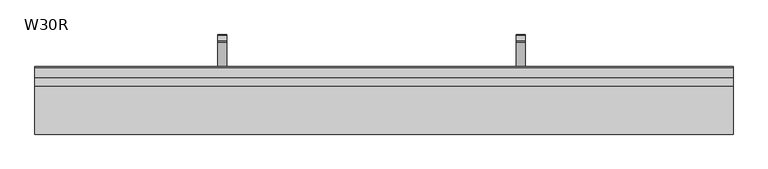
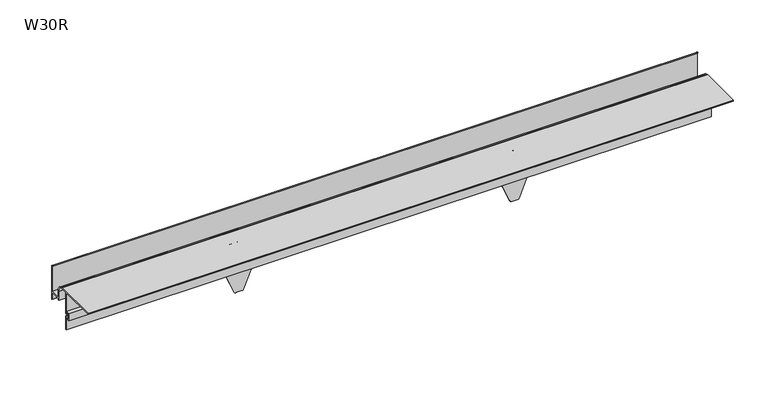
"""IFC4 building model written with IfcOpenShell, lengths in millimetres: proxy geometry, W30R Profil okapowy prosty z rynną : W30R."""

from ifc_helpers import new_model, si_unit, point, frame, frame_2d, origin, place, context, project, spatial, polyline, circle_curve, trimmed, segment, composite_curve, outline, extrude, source, transform, mapped, element, save
from ifc_brep_helpers import plane_surface, cylinder_surface, revolved_surface, advanced_brep


def w30r_4fe4cb9a(model_context):
    return source(origin(), model_context, "Body", "SolidModel", [
        advanced_brep(
        [(806.4889281, 43.253125, -67.3579557), (806.4889281, 43.253125, -57.4654849), (806.4889281, 44.253125, -56.4654849), (806.4889281, 54.253125, -56.4654849), (806.4889281, 54.253125, -58.4654849), (806.4889281, 45.753125, -58.4654849), (806.4889281, 45.753125, -62.0548341), (806.4889281, 45.753125, -76.6748546), (806.4889281, 11.253125, -121.4654849), (806.4889281, -39.746875, -121.4650625), (806.4889281, -39.746875, -46.4650625), (806.4889281, -29.746875, -46.4650625), (806.4889281, -26.9184479, -47.6366354), (806.4889281, -25.5042343, -49.0508489), (806.4889281, -26.9184479, -50.4650625), (806.4889281, -28.3326614, -49.0508489), (806.4889281, -33.746875, -48.4650699), (806.4889281, -31.746875, -67.3579557), (821.4889281, 43.253125, -67.3579557), (821.4889281, -31.746875, -67.3579557), (821.4889281, -33.746875, -48.4650699), (821.4889281, -28.3326614, -49.0508489), (821.4889281, -26.9184479, -50.4650625), (821.4889281, -25.5042343, -49.0508489), (821.4889281, -26.9184479, -47.6366354), (821.4889281, -29.746875, -46.4650625), (821.4889281, -39.746875, -46.4650625), (821.4889281, -39.746875, -121.4650625), (821.4889281, 11.253125, -121.4654849), (821.4889281, 45.753125, -76.6748546), (821.4889281, 45.753125, -62.0548341), (821.4889281, 45.753125, -58.4654849), (821.4889281, 54.253125, -58.4654849), (821.4889281, 54.253125, -56.4654849), (821.4889281, 44.253125, -56.4654849), (821.4889281, 43.253125, -57.4654849), (833.4889281, -39.746875, -33.4650625), (836.4889281, -39.746875, -36.4650625), (836.4889281, -39.746875, -98.4650625), (822.2581588, -39.746875, -132.6189087), (819.4889281, -39.746875, -134.4650625), (808.4889281, -39.746875, -134.4650625), (805.7196973, -39.746875, -132.6189087), (791.4889281, -39.746875, -98.4650625), (791.4889281, -39.746875, -36.4650625), (794.4889281, -39.746875, -33.4650625), (833.4889281, -41.746875, -33.4650625), (794.4889281, -41.746875, -33.4650625), (791.4889281, -41.746875, -36.4650625), (791.4889281, -41.746875, -98.4650625), (805.7196973, -41.746875, -132.6189087), (808.4889281, -41.746875, -134.4650625), (819.4889281, -41.746875, -134.4650625), (822.2581588, -41.746875, -132.6189087), (836.4889281, -41.746875, -98.4650625), (836.4889281, -41.746875, -36.4650625)],
        [
            (0, 1),
            (1, 2, circle_curve(frame((806.4889281, 44.253125, -57.4654849), z_axis=(-1.0, 0.0, 0.0), x_axis=(0.0, 1.0, 0.0)), 1.0)),
            (2, 3),
            (3, 4, circle_curve(frame((806.4889281, 54.253125, -57.4654849), z_axis=(-1.0, 0.0, 0.0), x_axis=(0.0, 1.0, 0.0)), 1.0)),
            (4, 5),
            (5, 6),
            (6, 7),
            (7, 8, circle_curve(frame((806.4889281, -6.9272146, -71.7799373), z_axis=(-1.0, 0.0, 0.0), x_axis=(0.0, 1.0, 0.0)), 52.9072622)),
            (8, 9),
            (9, 10),
            (10, 11),
            (11, 12, circle_curve(frame((806.4889281, -29.746875, -50.4650625), z_axis=(-1.0, 0.0, 0.0), x_axis=(0.0, 1.0, 0.0)), 4.0)),
            (12, 13),
            (13, 14, circle_curve(frame((806.4889281, -26.2113411, -49.7579557), z_axis=(-1.0, 0.0, 0.0), x_axis=(0.0, 1.0, 0.0)), 1.0)),
            (14, 15),
            (15, 16, circle_curve(frame((806.4889281, -32.9075381, -66.0213045), z_axis=(1.0, 0.0, 0.0), x_axis=(0.0, 1.0, 0.0)), 17.5762868)),
            (16, 17),
            (17, 0, circle_curve(frame((806.4889281, 5.753125, -67.3579557), z_axis=(1.0, 0.0, 0.0), x_axis=(0.0, 1.0, 0.0)), 37.5)),
            (18, 19, circle_curve(frame((821.4889281, 5.753125, -67.3579557), z_axis=(-1.0, 0.0, 0.0), x_axis=(0.0, 1.0, 0.0)), 37.5)),
            (19, 20),
            (20, 21, circle_curve(frame((821.4889281, -32.9075381, -66.0213045), z_axis=(-1.0, 0.0, 0.0), x_axis=(0.0, 1.0, 0.0)), 17.5762868)),
            (21, 22),
            (22, 23, circle_curve(frame((821.4889281, -26.2113411, -49.7579557), z_axis=(1.0, 0.0, 0.0), x_axis=(0.0, 1.0, 0.0)), 1.0)),
            (23, 24),
            (24, 25, circle_curve(frame((821.4889281, -29.746875, -50.4650625), z_axis=(1.0, 0.0, 0.0), x_axis=(0.0, 1.0, 0.0)), 4.0)),
            (25, 26),
            (26, 27),
            (27, 28),
            (28, 29, circle_curve(frame((821.4889281, -6.9272146, -71.7799373), z_axis=(1.0, 0.0, 0.0), x_axis=(0.0, 1.0, 0.0)), 52.9072622)),
            (29, 30),
            (30, 31),
            (31, 32),
            (32, 33, circle_curve(frame((821.4889281, 54.253125, -57.4654849), z_axis=(1.0, 0.0, 0.0), x_axis=(0.0, 1.0, 0.0)), 1.0)),
            (33, 34),
            (34, 35, circle_curve(frame((821.4889281, 44.253125, -57.4654849), z_axis=(1.0, 0.0, 0.0), x_axis=(0.0, 1.0, 0.0)), 1.0)),
            (35, 18),
            (0, 18),
            (35, 1),
            (34, 2),
            (33, 3),
            (32, 4),
            (31, 5),
            (30, 6),
            (29, 7),
            (28, 8),
            (27, 9),
            (10, 26),
            (25, 11),
            (24, 12),
            (23, 13),
            (22, 14),
            (21, 15),
            (20, 16),
            (19, 17),
            (36, 37, circle_curve(frame((833.4889281, -39.746875, -36.4650625), z_axis=(0.0, 1.0, 0.0), x_axis=(1.0, 0.0, 0.0)), 3.0)),
            (37, 38),
            (38, 39),
            (39, 40, circle_curve(frame((819.4889281, -39.746875, -131.4650625), z_axis=(0.0, 1.0, 0.0), x_axis=(1.0, 0.0, 0.0)), 3.0)),
            (40, 41),
            (41, 42, circle_curve(frame((808.4889281, -39.746875, -131.4650625), z_axis=(0.0, 1.0, 0.0), x_axis=(1.0, 0.0, 0.0)), 3.0)),
            (42, 43),
            (43, 44),
            (44, 45, circle_curve(frame((794.4889281, -39.746875, -36.4650625), z_axis=(0.0, 1.0, 0.0), x_axis=(1.0, 0.0, 0.0)), 3.0)),
            (45, 36),
            (46, 47),
            (47, 48, circle_curve(frame((794.4889281, -41.746875, -36.4650625), z_axis=(0.0, -1.0, 0.0), x_axis=(1.0, 0.0, 0.0)), 3.0)),
            (48, 49),
            (49, 50),
            (50, 51, circle_curve(frame((808.4889281, -41.746875, -131.4650625), z_axis=(0.0, -1.0, 0.0), x_axis=(1.0, 0.0, 0.0)), 3.0)),
            (51, 52),
            (52, 53, circle_curve(frame((819.4889281, -41.746875, -131.4650625), z_axis=(0.0, -1.0, 0.0), x_axis=(1.0, 0.0, 0.0)), 3.0)),
            (53, 54),
            (54, 55),
            (55, 46, circle_curve(frame((833.4889281, -41.746875, -36.4650625), z_axis=(0.0, -1.0, 0.0), x_axis=(1.0, 0.0, 0.0)), 3.0)),
            (45, 47),
            (46, 36),
            (44, 48),
            (43, 49),
            (42, 50),
            (41, 51),
            (40, 52),
            (39, 53),
            (38, 54),
            (37, 55),
        ],
        [
            plane_surface(frame((806.4889281, 43.253125, -57.4654849), z_axis=(-1.0, 0.0, 0.0), x_axis=(0.0, 0.0, -1.0))),
            plane_surface(frame((821.4889281, 43.253125, -57.4654849), z_axis=(1.0, 0.0, 0.0), x_axis=(0.0, 0.0, 1.0))),
            plane_surface(frame((821.4889281, 43.253125, -67.3579557), z_axis=(0.0, -1.0, 0.0), x_axis=(-1.0, 0.0, 0.0))),
            cylinder_surface(frame((806.4889281, 44.253125, -57.4654849), z_axis=(1.0, 0.0, 0.0), x_axis=(0.0, 1.0, 0.0)), 1.0),
            plane_surface(frame((821.4889281, 44.253125, -56.4654849), z_axis=(0.0, 0.0, 1.0), x_axis=(-1.0, 0.0, 0.0))),
            cylinder_surface(frame((806.4889281, 54.253125, -57.4654849), z_axis=(1.0, 0.0, 0.0), x_axis=(0.0, 1.0, 0.0)), 1.0),
            plane_surface(frame((821.4889281, 54.253125, -58.4654849), z_axis=(0.0, 0.0, -1.0), x_axis=(-1.0, 0.0, 0.0))),
            plane_surface(frame((821.4889281, 45.753125, -58.4654849), z_axis=(0.0, 1.0, 0.0), x_axis=(-1.0, 0.0, 0.0))),
            plane_surface(frame((821.4889281, 45.753125, -62.0548341), z_axis=(0.0, 1.0, 0.0), x_axis=(-1.0, 0.0, 0.0))),
            cylinder_surface(frame((806.4889281, -6.9272146, -71.7799373), z_axis=(1.0, 0.0, 0.0), x_axis=(0.0, 1.0, 0.0)), 52.9072622),
            plane_surface(frame((821.4889281, 11.253125, -121.4654849), z_axis=(0.0, -8.283194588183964e-06, -0.9999999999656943), x_axis=(-1.0, 0.0, 0.0))),
            plane_surface(frame((821.4889281, -40.7901639, -46.4650625), z_axis=(0.0, 0.0, 1.0), x_axis=(-1.0, 0.0, 0.0))),
            cylinder_surface(frame((806.4889281, -29.746875, -50.4650625), z_axis=(1.0, 0.0, 0.0), x_axis=(0.0, 1.0, 0.0)), 4.0),
            plane_surface(frame((821.4889281, -26.9184479, -47.6366354), z_axis=(0.0, 0.7071067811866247, 0.7071067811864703), x_axis=(-1.0, 0.0, 0.0))),
            cylinder_surface(frame((806.4889281, -26.2113411, -49.7579557), z_axis=(1.0, 0.0, 0.0), x_axis=(0.0, 1.0, 0.0)), 1.0),
            plane_surface(frame((821.4889281, -26.9184479, -50.4650625), z_axis=(0.0, -0.7071067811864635, -0.7071067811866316), x_axis=(-1.0, 0.0, 0.0))),
            revolved_surface(polyline([(806.4889281, -15.331251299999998, -66.0213045), (821.4889281, -15.331251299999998, -66.0213045)]), (806.4889281, -32.9075381, -66.0213045), (-1.0, 0.0, 0.0)),
            plane_surface(frame((821.4889281, -33.746875, -48.4650699), z_axis=(0.0, 0.9944434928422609, 0.10527174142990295), x_axis=(-1.0, 0.0, 0.0))),
            revolved_surface(polyline([(806.4889281, 43.253125, -67.3579557), (821.4889281, 43.253125, -67.3579557)]), (806.4889281, 5.753125, -67.3579557), (-1.0, 0.0, 0.0)),
            plane_surface(frame((794.4889281, -39.746875, -33.4650625), z_axis=(0.0, 1.0, 0.0), x_axis=(-1.0, 0.0, 0.0))),
            plane_surface(frame((794.4889281, -41.746875, -33.4650625), z_axis=(0.0, -1.0, 0.0), x_axis=(1.0, 0.0, 0.0))),
            plane_surface(frame((833.4889281, -39.746875, -33.4650625), z_axis=(0.0, 0.0, 1.0), x_axis=(0.0, -1.0, 0.0))),
            cylinder_surface(frame((794.4889281, -41.746875, -36.4650625), z_axis=(0.0, 1.0, 0.0), x_axis=(1.0, 0.0, 0.0)), 3.0),
            plane_surface(frame((791.4889281, -39.746875, -36.4650625), z_axis=(-1.0, 0.0, 0.0), x_axis=(0.0, -1.0, 0.0))),
            plane_surface(frame((791.4889281, -39.746875, -98.4650625), z_axis=(-0.9230769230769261, 0.0, -0.38461538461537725), x_axis=(0.0, -1.0, 0.0))),
            cylinder_surface(frame((808.4889281, -41.746875, -131.4650625), z_axis=(0.0, 1.0, 0.0), x_axis=(1.0, 0.0, 0.0)), 3.0),
            plane_surface(frame((808.4889281, -39.746875, -134.4650625), z_axis=(0.0, 0.0, -1.0), x_axis=(0.0, -1.0, 0.0))),
            cylinder_surface(frame((819.4889281, -41.746875, -131.4650625), z_axis=(0.0, 1.0, 0.0), x_axis=(1.0, 0.0, 0.0)), 3.0),
            plane_surface(frame((822.2581588, -39.746875, -132.6189087), z_axis=(0.9230769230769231, 0.0, -0.3846153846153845), x_axis=(0.0, -1.0, 0.0))),
            plane_surface(frame((836.4889281, -39.746875, -98.4650625), z_axis=(1.0, 0.0, 0.0), x_axis=(0.0, -1.0, 0.0))),
            cylinder_surface(frame((833.4889281, -41.746875, -36.4650625), z_axis=(0.0, 1.0, 0.0), x_axis=(1.0, 0.0, 0.0)), 3.0),
        ],
        [
            (0, [[1, 2, 3, 4, 5, 6, 7, 8, 9, 10, 11, 12, 13, 14, 15, 16, 17, 18]]),
            (1, [[19, 20, 21, 22, 23, 24, 25, 26, 27, 28, 29, 30, 31, 32, 33, 34, 35, 36]]),
            (2, [[37, -36, 38, -1]]),
            (3, [[-38, -35, 39, -2]]),
            (4, [[-39, -34, 40, -3]]),
            (5, [[-40, -33, 41, -4]]),
            (6, [[-41, -32, 42, -5]]),
            (7, [[-42, -31, 43, -6]]),
            (8, [[-43, -30, 44, -7]]),
            (9, [[-44, -29, 45, -8]]),
            (10, [[-28, 46, -9, -45]]),
            (11, [[-11, 47, -26, 48]]),
            (12, [[-48, -25, 49, -12]]),
            (13, [[-49, -24, 50, -13]]),
            (14, [[-50, -23, 51, -14]]),
            (15, [[-51, -22, 52, -15]]),
            (16, [[-52, -21, 53, -16]]),
            (17, [[-53, -20, 54, -17]]),
            (18, [[-54, -19, -37, -18]]),
            (19, [[55, 56, 57, 58, 59, 60, 61, 62, 63, 64], [-46, -27, -47, -10]]),
            (20, [[65, 66, 67, 68, 69, 70, 71, 72, 73, 74]]),
            (21, [[75, -65, 76, -64]]),
            (22, [[77, -66, -75, -63]]),
            (23, [[78, -67, -77, -62]]),
            (24, [[79, -68, -78, -61]]),
            (25, [[80, -69, -79, -60]]),
            (26, [[81, -70, -80, -59]]),
            (27, [[82, -71, -81, -58]]),
            (28, [[83, -72, -82, -57]]),
            (29, [[84, -73, -83, -56]]),
            (30, [[-76, -74, -84, -55]]),
        ],
    ),
        advanced_brep(
        [(306.4889281, 43.253125, -67.3579557), (306.4889281, 43.253125, -57.4654849), (306.4889281, 44.253125, -56.4654849), (306.4889281, 54.253125, -56.4654849), (306.4889281, 54.253125, -58.4654849), (306.4889281, 45.753125, -58.4654849), (306.4889281, 45.753125, -62.0548341), (306.4889281, 45.753125, -76.6748546), (306.4889281, 11.253125, -121.4654849), (306.4889281, -39.746875, -121.4650625), (306.4889281, -39.746875, -46.4650625), (306.4889281, -29.746875, -46.4650625), (306.4889281, -26.9184479, -47.6366354), (306.4889281, -25.5042343, -49.0508489), (306.4889281, -26.9184479, -50.4650625), (306.4889281, -28.3326614, -49.0508489), (306.4889281, -33.746875, -48.4650699), (306.4889281, -31.746875, -67.3579557), (321.4889281, 43.253125, -67.3579557), (321.4889281, -31.746875, -67.3579557), (321.4889281, -33.746875, -48.4650699), (321.4889281, -28.3326614, -49.0508489), (321.4889281, -26.9184479, -50.4650625), (321.4889281, -25.5042343, -49.0508489), (321.4889281, -26.9184479, -47.6366354), (321.4889281, -29.746875, -46.4650625), (321.4889281, -39.746875, -46.4650625), (321.4889281, -39.746875, -121.4650625), (321.4889281, 11.253125, -121.4654849), (321.4889281, 45.753125, -76.6748546), (321.4889281, 45.753125, -62.0548341), (321.4889281, 45.753125, -58.4654849), (321.4889281, 54.253125, -58.4654849), (321.4889281, 54.253125, -56.4654849), (321.4889281, 44.253125, -56.4654849), (321.4889281, 43.253125, -57.4654849), (333.4889281, -39.746875, -33.4650625), (336.4889281, -39.746875, -36.4650625), (336.4889281, -39.746875, -98.4650625), (322.2581588, -39.746875, -132.6189087), (319.4889281, -39.746875, -134.4650625), (308.4889281, -39.746875, -134.4650625), (305.7196973, -39.746875, -132.6189087), (291.4889281, -39.746875, -98.4650625), (291.4889281, -39.746875, -36.4650625), (294.4889281, -39.746875, -33.4650625), (333.4889281, -41.746875, -33.4650625), (294.4889281, -41.746875, -33.4650625), (291.4889281, -41.746875, -36.4650625), (291.4889281, -41.746875, -98.4650625), (305.7196973, -41.746875, -132.6189087), (308.4889281, -41.746875, -134.4650625), (319.4889281, -41.746875, -134.4650625), (322.2581588, -41.746875, -132.6189087), (336.4889281, -41.746875, -98.4650625), (336.4889281, -41.746875, -36.4650625)],
        [
            (0, 1),
            (1, 2, circle_curve(frame((306.4889281, 44.253125, -57.4654849), z_axis=(-1.0, 0.0, 0.0), x_axis=(0.0, 1.0, 0.0)), 1.0)),
            (2, 3),
            (3, 4, circle_curve(frame((306.4889281, 54.253125, -57.4654849), z_axis=(-1.0, 0.0, 0.0), x_axis=(0.0, 1.0, 0.0)), 1.0)),
            (4, 5),
            (5, 6),
            (6, 7),
            (7, 8, circle_curve(frame((306.4889281, -6.9272146, -71.7799373), z_axis=(-1.0, 0.0, 0.0), x_axis=(0.0, 1.0, 0.0)), 52.9072622)),
            (8, 9),
            (9, 10),
            (10, 11),
            (11, 12, circle_curve(frame((306.4889281, -29.746875, -50.4650625), z_axis=(-1.0, 0.0, 0.0), x_axis=(0.0, 1.0, 0.0)), 4.0)),
            (12, 13),
            (13, 14, circle_curve(frame((306.4889281, -26.2113411, -49.7579557), z_axis=(-1.0, 0.0, 0.0), x_axis=(0.0, 1.0, 0.0)), 1.0)),
            (14, 15),
            (15, 16, circle_curve(frame((306.4889281, -32.9075381, -66.0213045), z_axis=(1.0, 0.0, 0.0), x_axis=(0.0, 1.0, 0.0)), 17.5762868)),
            (16, 17),
            (17, 0, circle_curve(frame((306.4889281, 5.753125, -67.3579557), z_axis=(1.0, 0.0, 0.0), x_axis=(0.0, 1.0, 0.0)), 37.5)),
            (18, 19, circle_curve(frame((321.4889281, 5.753125, -67.3579557), z_axis=(-1.0, 0.0, 0.0), x_axis=(0.0, 1.0, 0.0)), 37.5)),
            (19, 20),
            (20, 21, circle_curve(frame((321.4889281, -32.9075381, -66.0213045), z_axis=(-1.0, 0.0, 0.0), x_axis=(0.0, 1.0, 0.0)), 17.5762868)),
            (21, 22),
            (22, 23, circle_curve(frame((321.4889281, -26.2113411, -49.7579557), z_axis=(1.0, 0.0, 0.0), x_axis=(0.0, 1.0, 0.0)), 1.0)),
            (23, 24),
            (24, 25, circle_curve(frame((321.4889281, -29.746875, -50.4650625), z_axis=(1.0, 0.0, 0.0), x_axis=(0.0, 1.0, 0.0)), 4.0)),
            (25, 26),
            (26, 27),
            (27, 28),
            (28, 29, circle_curve(frame((321.4889281, -6.9272146, -71.7799373), z_axis=(1.0, 0.0, 0.0), x_axis=(0.0, 1.0, 0.0)), 52.9072622)),
            (29, 30),
            (30, 31),
            (31, 32),
            (32, 33, circle_curve(frame((321.4889281, 54.253125, -57.4654849), z_axis=(1.0, 0.0, 0.0), x_axis=(0.0, 1.0, 0.0)), 1.0)),
            (33, 34),
            (34, 35, circle_curve(frame((321.4889281, 44.253125, -57.4654849), z_axis=(1.0, 0.0, 0.0), x_axis=(0.0, 1.0, 0.0)), 1.0)),
            (35, 18),
            (0, 18),
            (35, 1),
            (34, 2),
            (33, 3),
            (32, 4),
            (31, 5),
            (30, 6),
            (29, 7),
            (28, 8),
            (27, 9),
            (10, 26),
            (25, 11),
            (24, 12),
            (23, 13),
            (22, 14),
            (21, 15),
            (20, 16),
            (19, 17),
            (36, 37, circle_curve(frame((333.4889281, -39.746875, -36.4650625), z_axis=(0.0, 1.0, 0.0), x_axis=(1.0, 0.0, 0.0)), 3.0)),
            (37, 38),
            (38, 39),
            (39, 40, circle_curve(frame((319.4889281, -39.746875, -131.4650625), z_axis=(0.0, 1.0, 0.0), x_axis=(1.0, 0.0, 0.0)), 3.0)),
            (40, 41),
            (41, 42, circle_curve(frame((308.4889281, -39.746875, -131.4650625), z_axis=(0.0, 1.0, 0.0), x_axis=(1.0, 0.0, 0.0)), 3.0)),
            (42, 43),
            (43, 44),
            (44, 45, circle_curve(frame((294.4889281, -39.746875, -36.4650625), z_axis=(0.0, 1.0, 0.0), x_axis=(1.0, 0.0, 0.0)), 3.0)),
            (45, 36),
            (46, 47),
            (47, 48, circle_curve(frame((294.4889281, -41.746875, -36.4650625), z_axis=(0.0, -1.0, 0.0), x_axis=(1.0, 0.0, 0.0)), 3.0)),
            (48, 49),
            (49, 50),
            (50, 51, circle_curve(frame((308.4889281, -41.746875, -131.4650625), z_axis=(0.0, -1.0, 0.0), x_axis=(1.0, 0.0, 0.0)), 3.0)),
            (51, 52),
            (52, 53, circle_curve(frame((319.4889281, -41.746875, -131.4650625), z_axis=(0.0, -1.0, 0.0), x_axis=(1.0, 0.0, 0.0)), 3.0)),
            (53, 54),
            (54, 55),
            (55, 46, circle_curve(frame((333.4889281, -41.746875, -36.4650625), z_axis=(0.0, -1.0, 0.0), x_axis=(1.0, 0.0, 0.0)), 3.0)),
            (45, 47),
            (46, 36),
            (44, 48),
            (43, 49),
            (42, 50),
            (41, 51),
            (40, 52),
            (39, 53),
            (38, 54),
            (37, 55),
        ],
        [
            plane_surface(frame((306.4889281, 43.253125, -57.4654849), z_axis=(-1.0, 0.0, 0.0), x_axis=(0.0, 0.0, -1.0))),
            plane_surface(frame((321.4889281, 43.253125, -57.4654849), z_axis=(1.0, 0.0, 0.0), x_axis=(0.0, 0.0, 1.0))),
            plane_surface(frame((321.4889281, 43.253125, -67.3579557), z_axis=(0.0, -1.0, 0.0), x_axis=(-1.0, 0.0, 0.0))),
            cylinder_surface(frame((306.4889281, 44.253125, -57.4654849), z_axis=(1.0, 0.0, 0.0), x_axis=(0.0, 1.0, 0.0)), 1.0),
            plane_surface(frame((321.4889281, 44.253125, -56.4654849), z_axis=(0.0, 0.0, 1.0), x_axis=(-1.0, 0.0, 0.0))),
            cylinder_surface(frame((306.4889281, 54.253125, -57.4654849), z_axis=(1.0, 0.0, 0.0), x_axis=(0.0, 1.0, 0.0)), 1.0),
            plane_surface(frame((321.4889281, 54.253125, -58.4654849), z_axis=(0.0, 0.0, -1.0), x_axis=(-1.0, 0.0, 0.0))),
            plane_surface(frame((321.4889281, 45.753125, -58.4654849), z_axis=(0.0, 1.0, 0.0), x_axis=(-1.0, 0.0, 0.0))),
            plane_surface(frame((321.4889281, 45.753125, -62.0548341), z_axis=(0.0, 1.0, 0.0), x_axis=(-1.0, 0.0, 0.0))),
            cylinder_surface(frame((306.4889281, -6.9272146, -71.7799373), z_axis=(1.0, 0.0, 0.0), x_axis=(0.0, 1.0, 0.0)), 52.9072622),
            plane_surface(frame((321.4889281, 11.253125, -121.4654849), z_axis=(0.0, -8.283194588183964e-06, -0.9999999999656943), x_axis=(-1.0, 0.0, 0.0))),
            plane_surface(frame((321.4889281, -40.7901639, -46.4650625), z_axis=(0.0, 0.0, 1.0), x_axis=(-1.0, 0.0, 0.0))),
            cylinder_surface(frame((306.4889281, -29.746875, -50.4650625), z_axis=(1.0, 0.0, 0.0), x_axis=(0.0, 1.0, 0.0)), 4.0),
            plane_surface(frame((321.4889281, -26.9184479, -47.6366354), z_axis=(0.0, 0.7071067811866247, 0.7071067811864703), x_axis=(-1.0, 0.0, 0.0))),
            cylinder_surface(frame((306.4889281, -26.2113411, -49.7579557), z_axis=(1.0, 0.0, 0.0), x_axis=(0.0, 1.0, 0.0)), 1.0),
            plane_surface(frame((321.4889281, -26.9184479, -50.4650625), z_axis=(0.0, -0.7071067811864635, -0.7071067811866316), x_axis=(-1.0, 0.0, 0.0))),
            revolved_surface(polyline([(306.4889281, -15.331251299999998, -66.0213045), (321.4889281, -15.331251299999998, -66.0213045)]), (306.4889281, -32.9075381, -66.0213045), (-1.0, 0.0, 0.0)),
            plane_surface(frame((321.4889281, -33.746875, -48.4650699), z_axis=(0.0, 0.9944434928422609, 0.10527174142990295), x_axis=(-1.0, 0.0, 0.0))),
            revolved_surface(polyline([(306.4889281, 43.253125, -67.3579557), (321.4889281, 43.253125, -67.3579557)]), (306.4889281, 5.753125, -67.3579557), (-1.0, 0.0, 0.0)),
            plane_surface(frame((294.4889281, -39.746875, -33.4650625), z_axis=(0.0, 1.0, 0.0), x_axis=(-1.0, 0.0, 0.0))),
            plane_surface(frame((294.4889281, -41.746875, -33.4650625), z_axis=(0.0, -1.0, 0.0), x_axis=(1.0, 0.0, 0.0))),
            plane_surface(frame((333.4889281, -39.746875, -33.4650625), z_axis=(0.0, 0.0, 1.0), x_axis=(0.0, -1.0, 0.0))),
            cylinder_surface(frame((294.4889281, -41.746875, -36.4650625), z_axis=(0.0, 1.0, 0.0), x_axis=(1.0, 0.0, 0.0)), 3.0),
            plane_surface(frame((291.4889281, -39.746875, -36.4650625), z_axis=(-1.0, 0.0, 0.0), x_axis=(0.0, -1.0, 0.0))),
            plane_surface(frame((291.4889281, -39.746875, -98.4650625), z_axis=(-0.9230769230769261, 0.0, -0.38461538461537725), x_axis=(0.0, -1.0, 0.0))),
            cylinder_surface(frame((308.4889281, -41.746875, -131.4650625), z_axis=(0.0, 1.0, 0.0), x_axis=(1.0, 0.0, 0.0)), 3.0),
            plane_surface(frame((308.4889281, -39.746875, -134.4650625), z_axis=(0.0, 0.0, -1.0), x_axis=(0.0, -1.0, 0.0))),
            cylinder_surface(frame((319.4889281, -41.746875, -131.4650625), z_axis=(0.0, 1.0, 0.0), x_axis=(1.0, 0.0, 0.0)), 3.0),
            plane_surface(frame((322.2581588, -39.746875, -132.6189087), z_axis=(0.9230769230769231, 0.0, -0.3846153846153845), x_axis=(0.0, -1.0, 0.0))),
            plane_surface(frame((336.4889281, -39.746875, -98.4650625), z_axis=(1.0, 0.0, 0.0), x_axis=(0.0, -1.0, 0.0))),
            cylinder_surface(frame((333.4889281, -41.746875, -36.4650625), z_axis=(0.0, 1.0, 0.0), x_axis=(1.0, 0.0, 0.0)), 3.0),
        ],
        [
            (0, [[1, 2, 3, 4, 5, 6, 7, 8, 9, 10, 11, 12, 13, 14, 15, 16, 17, 18]]),
            (1, [[19, 20, 21, 22, 23, 24, 25, 26, 27, 28, 29, 30, 31, 32, 33, 34, 35, 36]]),
            (2, [[37, -36, 38, -1]]),
            (3, [[-38, -35, 39, -2]]),
            (4, [[-39, -34, 40, -3]]),
            (5, [[-40, -33, 41, -4]]),
            (6, [[-41, -32, 42, -5]]),
            (7, [[-42, -31, 43, -6]]),
            (8, [[-43, -30, 44, -7]]),
            (9, [[-44, -29, 45, -8]]),
            (10, [[-28, 46, -9, -45]]),
            (11, [[-11, 47, -26, 48]]),
            (12, [[-48, -25, 49, -12]]),
            (13, [[-49, -24, 50, -13]]),
            (14, [[-50, -23, 51, -14]]),
            (15, [[-51, -22, 52, -15]]),
            (16, [[-52, -21, 53, -16]]),
            (17, [[-53, -20, 54, -17]]),
            (18, [[-54, -19, -37, -18]]),
            (19, [[55, 56, 57, 58, 59, 60, 61, 62, 63, 64], [-46, -27, -47, -10]]),
            (20, [[65, 66, 67, 68, 69, 70, 71, 72, 73, 74]]),
            (21, [[75, -65, 76, -64]]),
            (22, [[77, -66, -75, -63]]),
            (23, [[78, -67, -77, -62]]),
            (24, [[79, -68, -78, -61]]),
            (25, [[80, -69, -79, -60]]),
            (26, [[81, -70, -80, -59]]),
            (27, [[82, -71, -81, -58]]),
            (28, [[83, -72, -82, -57]]),
            (29, [[84, -73, -83, -56]]),
            (30, [[-76, -74, -84, -55]]),
        ],
    ),
        extrude(outline(composite_curve([segment(polyline([(-41.76, -66.726163), (-43.76, -66.726163), (-43.76, -63.126163), (-48.96, -63.126163), (-48.96, -74.326163), (-43.76, -74.326163), (-43.76, -70.726163), (-41.76, -70.726163), (-41.76, -97.190163), (-43.04, -97.190163), (-43.04, -75.526163), (-50.32, -75.526163), (-50.32, -61.926163), (-43.12, -61.926163), (-43.12, -25.926163), (-111.68, -25.926163), (-111.68, -24.006163), (-31.36, -24.006163)]), True, "CONTINUOUS"), segment(trimmed(circle_curve(frame_2d((-31.36, -37.606163)), 13.6), [point((-31.36, -24.006163))], [point((-17.76, -37.606163))], False, "CARTESIAN"), True, "CONTINUOUS"), segment(polyline([(-17.76, -37.606163), (-17.76, -49.846163), (0.8, -49.846163), (0.8, -2.2327357)]), True, "CONTINUOUS"), segment(trimmed(circle_curve(frame_2d((0.0, -2.2327357)), 0.8), [point((0.8, -2.2327357))], [point((0.0, -1.4327357))], True, "CARTESIAN"), True, "CONTINUOUS"), segment(polyline([(0.0, -1.4327357), (0.0, 0.0)]), True, "CONTINUOUS"), segment(trimmed(circle_curve(frame_2d((0.0, -2.24)), 2.24), [point((0.0, 0.0))], [point((2.24, -2.24))], False, "CARTESIAN"), True, "CONTINUOUS"), segment(polyline([(2.24, -2.24), (2.24, -66.416302), (1.04, -65.216302), (1.04, -51.766163), (-17.76, -51.766163), (-17.76, -55.0930368), (-19.68, -55.0930368), (-19.68, -37.606163)]), True, "CONTINUOUS"), segment(trimmed(circle_curve(frame_2d((-31.36, -37.606163)), 11.68), [point((-19.68, -37.606163))], [point((-31.36, -25.926163))], True, "CARTESIAN"), True, "CONTINUOUS"), segment(polyline([(-31.36, -25.926163), (-41.76, -25.926163), (-41.76, -66.726163)]), True, "CONTINUOUS")], self_intersect=False)), frame((0.0, 0.0, 0.0), z_axis=(1.0, 0.0, 0.0), x_axis=(0.0, 1.0, 0.0)), (0.0, 0.0, 1.0), 1169.9999959),
    ])


if __name__ == "__main__":
    model = new_model("IFC4")
    model_context = context("Model", 3, world=origin())
    ifc_project = project(units=[si_unit("LENGTHUNIT", "METRE", prefix="MILLI")], contexts=[model_context])
    site = spatial("IfcSite", under=ifc_project)
    building = spatial("IfcBuilding", under=site)
    placement = place(None, origin())
    w30r_shape = w30r_4fe4cb9a(model_context)
    element("IfcBuildingElementProxy", 1, Name="W30R Profil okapowy prosty z rynną : W30R", ObjectType="W30R Profil okapowy prosty z rynną : W30R", at=placement, inside=building, context=model_context, shape_type="MappedRepresentation", body=[
        mapped(w30r_shape, transform((0.0, 0.0, 0.0), x_axis=(1.0, 0.0, 0.0), y_axis=(0.0, 1.0, 0.0), z_axis=(0.0, 0.0, 1.0))),
    ])
    save(model, "model.ifc")
